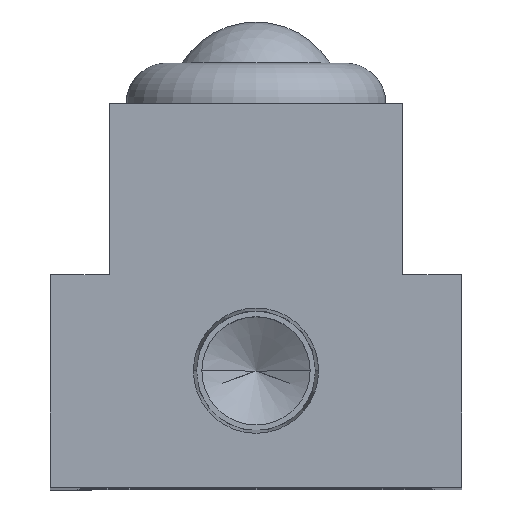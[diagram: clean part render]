
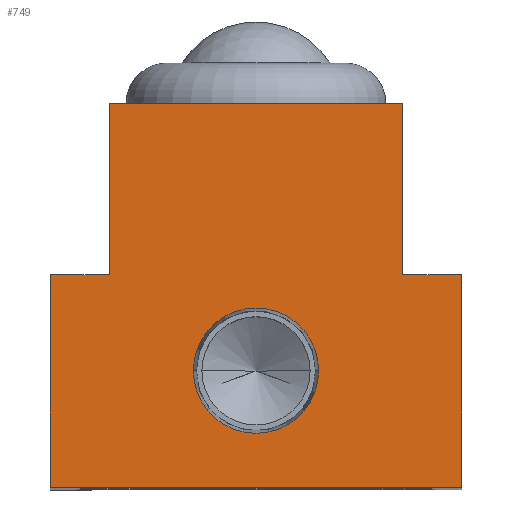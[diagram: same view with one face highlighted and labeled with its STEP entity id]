
A CAD part, top view. The second image highlights one B-rep face of the part: STEP entity #749.
In plain terms, the highlighted planar face has unit normal (0, 0, 1).
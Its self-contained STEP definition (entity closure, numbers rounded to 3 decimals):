
#8 = VERTEX_POINT ( 'NONE', #1082 ) ;
#14 = DIRECTION ( 'NONE',  ( -1., 0., 0. ) ) ;
#46 = VECTOR ( 'NONE', #1531, 1000. ) ;
#73 = LINE ( 'NONE', #2185, #2629 ) ;
#126 = ORIENTED_EDGE ( 'NONE', *, *, #2465, .F. ) ;
#141 = DIRECTION ( 'NONE',  ( 1., 0., 0. ) ) ;
#180 = AXIS2_PLACEMENT_3D ( 'NONE', #3129, #1635, #141 ) ;
#199 = DIRECTION ( 'NONE',  ( -1., 0., 0. ) ) ;
#221 = VERTEX_POINT ( 'NONE', #3174 ) ;
#251 = CARTESIAN_POINT ( 'NONE',  ( 4.574, 8.5, 0. ) ) ;
#269 = ORIENTED_EDGE ( 'NONE', *, *, #535, .T. ) ;
#297 = VERTEX_POINT ( 'NONE', #1724 ) ;
#302 = CARTESIAN_POINT ( 'NONE',  ( 15., 0., 0. ) ) ;
#334 = VERTEX_POINT ( 'NONE', #251 ) ;
#433 = EDGE_CURVE ( 'NONE', #297, #8, #1356, .T. ) ;
#469 = CARTESIAN_POINT ( 'NONE',  ( 10.7, 28., 0. ) ) ;
#490 = CIRCLE ( 'NONE', #180, 4.574 ) ;
#535 = EDGE_CURVE ( 'NONE', #1430, #2600, #1040, .T. ) ;
#577 = DIRECTION ( 'NONE',  ( 0., -1., 0. ) ) ;
#610 = CIRCLE ( 'NONE', #1961, 4.574 ) ;
#636 = CARTESIAN_POINT ( 'NONE',  ( 15., 15.5, 0. ) ) ;
#649 = CARTESIAN_POINT ( 'NONE',  ( -15., 0., 0. ) ) ;
#650 = VERTEX_POINT ( 'NONE', #636 ) ;
#679 = AXIS2_PLACEMENT_3D ( 'NONE', #1896, #3169, #1679 ) ;
#749 = ADVANCED_FACE ( 'NONE', ( #1153, #3083 ), #2413, .T. ) ;
#841 = DIRECTION ( 'NONE',  ( 0., 0., 1. ) ) ;
#874 = LINE ( 'NONE', #302, #1102 ) ;
#951 = LINE ( 'NONE', #649, #1706 ) ;
#960 = EDGE_LOOP ( 'NONE', ( #1151, #2295, #1312, #2682, #3166, #269, #1639, #3184 ) ) ;
#1040 = LINE ( 'NONE', #1320, #2964 ) ;
#1082 = CARTESIAN_POINT ( 'NONE',  ( -15., 15.5, 0. ) ) ;
#1083 = CARTESIAN_POINT ( 'NONE',  ( -10.7, 28., 0. ) ) ;
#1102 = VECTOR ( 'NONE', #2036, 1000. ) ;
#1151 = ORIENTED_EDGE ( 'NONE', *, *, #1567, .T. ) ;
#1153 = FACE_BOUND ( 'NONE', #1988, .T. ) ;
#1213 = DIRECTION ( 'NONE',  ( 0., 1., 0. ) ) ;
#1278 = CARTESIAN_POINT ( 'NONE',  ( -10.7, 15.5, 0. ) ) ;
#1312 = ORIENTED_EDGE ( 'NONE', *, *, #2112, .T. ) ;
#1320 = CARTESIAN_POINT ( 'NONE',  ( 15., 0., 0. ) ) ;
#1356 = LINE ( 'NONE', #1278, #46 ) ;
#1383 = VECTOR ( 'NONE', #1213, 1000. ) ;
#1430 = VERTEX_POINT ( 'NONE', #1887 ) ;
#1445 = CARTESIAN_POINT ( 'NONE',  ( 15., 0., 0. ) ) ;
#1531 = DIRECTION ( 'NONE',  ( -1., 0., 0. ) ) ;
#1567 = EDGE_CURVE ( 'NONE', #1605, #3044, #2710, .T. ) ;
#1605 = VERTEX_POINT ( 'NONE', #2472 ) ;
#1626 = ORIENTED_EDGE ( 'NONE', *, *, #2118, .F. ) ;
#1635 = DIRECTION ( 'NONE',  ( 0., 0., 1. ) ) ;
#1639 = ORIENTED_EDGE ( 'NONE', *, *, #2032, .T. ) ;
#1679 = DIRECTION ( 'NONE',  ( 1., 0., 0. ) ) ;
#1706 = VECTOR ( 'NONE', #2390, 1000. ) ;
#1724 = CARTESIAN_POINT ( 'NONE',  ( -10.7, 15.5, 0. ) ) ;
#1749 = CARTESIAN_POINT ( 'NONE',  ( -10.7, 28., 0. ) ) ;
#1887 = CARTESIAN_POINT ( 'NONE',  ( -15., 0., 0. ) ) ;
#1896 = CARTESIAN_POINT ( 'NONE',  ( 0., 0., 0. ) ) ;
#1902 = EDGE_CURVE ( 'NONE', #3044, #221, #2510, .T. ) ;
#1929 = VECTOR ( 'NONE', #14, 1000. ) ;
#1934 = VECTOR ( 'NONE', #577, 1000. ) ;
#1960 = LINE ( 'NONE', #1083, #1934 ) ;
#1961 = AXIS2_PLACEMENT_3D ( 'NONE', #2336, #841, #2589 ) ;
#1988 = EDGE_LOOP ( 'NONE', ( #126, #1626 ) ) ;
#2032 = EDGE_CURVE ( 'NONE', #2600, #650, #874, .T. ) ;
#2036 = DIRECTION ( 'NONE',  ( 0., 1., 0. ) ) ;
#2071 = DIRECTION ( 'NONE',  ( 1., 0., 0. ) ) ;
#2112 = EDGE_CURVE ( 'NONE', #221, #297, #1960, .T. ) ;
#2118 = EDGE_CURVE ( 'NONE', #2281, #334, #610, .T. ) ;
#2185 = CARTESIAN_POINT ( 'NONE',  ( 10.7, 15.5, 0. ) ) ;
#2259 = EDGE_CURVE ( 'NONE', #8, #1430, #951, .T. ) ;
#2281 = VERTEX_POINT ( 'NONE', #2905 ) ;
#2295 = ORIENTED_EDGE ( 'NONE', *, *, #1902, .T. ) ;
#2336 = CARTESIAN_POINT ( 'NONE',  ( 0., 8.5, 0. ) ) ;
#2338 = EDGE_CURVE ( 'NONE', #650, #1605, #73, .T. ) ;
#2390 = DIRECTION ( 'NONE',  ( 0., -1., 0. ) ) ;
#2413 = PLANE ( 'NONE',  #679 ) ;
#2465 = EDGE_CURVE ( 'NONE', #334, #2281, #490, .T. ) ;
#2472 = CARTESIAN_POINT ( 'NONE',  ( 10.7, 15.5, 0. ) ) ;
#2510 = LINE ( 'NONE', #1749, #1929 ) ;
#2589 = DIRECTION ( 'NONE',  ( 1., 0., 0. ) ) ;
#2600 = VERTEX_POINT ( 'NONE', #1445 ) ;
#2609 = CARTESIAN_POINT ( 'NONE',  ( 10.7, 28., 0. ) ) ;
#2629 = VECTOR ( 'NONE', #199, 1000. ) ;
#2682 = ORIENTED_EDGE ( 'NONE', *, *, #433, .T. ) ;
#2710 = LINE ( 'NONE', #469, #1383 ) ;
#2905 = CARTESIAN_POINT ( 'NONE',  ( -4.574, 8.5, 0. ) ) ;
#2964 = VECTOR ( 'NONE', #2071, 1000. ) ;
#3044 = VERTEX_POINT ( 'NONE', #2609 ) ;
#3083 = FACE_OUTER_BOUND ( 'NONE', #960, .T. ) ;
#3129 = CARTESIAN_POINT ( 'NONE',  ( 0., 8.5, 0. ) ) ;
#3166 = ORIENTED_EDGE ( 'NONE', *, *, #2259, .T. ) ;
#3169 = DIRECTION ( 'NONE',  ( 0., 0., 1. ) ) ;
#3174 = CARTESIAN_POINT ( 'NONE',  ( -10.7, 28., 0. ) ) ;
#3184 = ORIENTED_EDGE ( 'NONE', *, *, #2338, .T. ) ;
